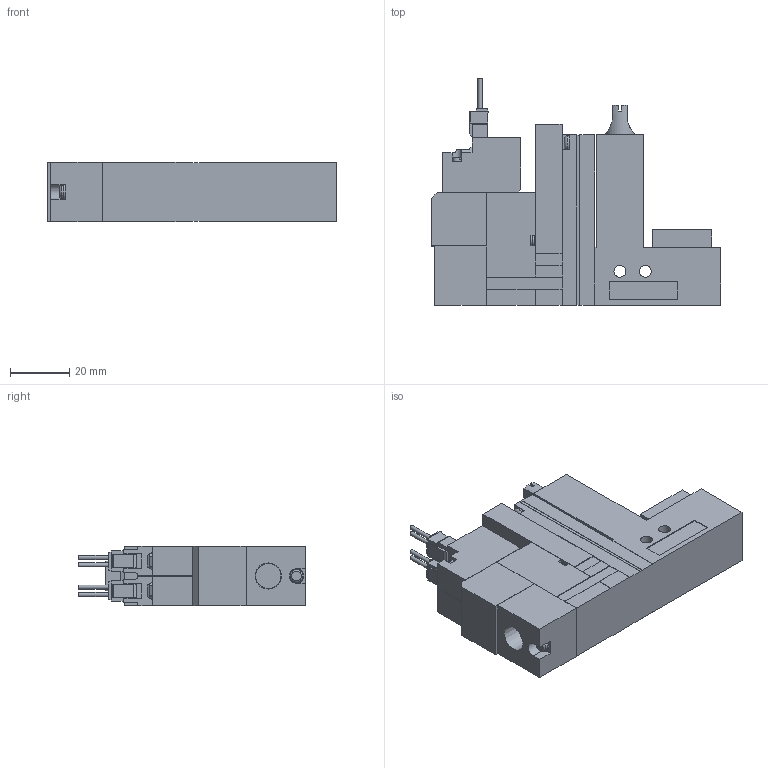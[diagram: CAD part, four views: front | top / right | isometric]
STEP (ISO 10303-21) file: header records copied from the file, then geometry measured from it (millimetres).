
FILE_DESCRIPTION(('STEP AP203'),'1');
FILE_NAME('ZLC5BLR.stp','2025-02-16T23:59:42',(' '),(' '),'Spatial InterOp 3D',' ',' ');
FILE_SCHEMA(('CONFIG_CONTROL_DESIGN'));
Length unit declared in the file: millimetre
Products named in the file (5): BMC22S※※※※ZLC5BLR; Solenoid valve B; Pressure sensor ZLC; Unit LC; Base SR10R
Assembly tree (4 placements, depth 2):
  BMC22S※※※※ZLC5BLR
    Solenoid valve B
    Pressure sensor ZLC
    Unit LC
    Base SR10R
Bounding box: 97.6 x 76.45 x 20 mm (x, y, z)
Volume: 88806.2 mm3; surface area: 23267.1 mm2
Topology: 4 solids, 4 shells, 361 faces, 971 edges, 638 vertices
Faces by surface type: plane 316, cylinder 34, cone 6, torus 5
Full cylindrical faces by diameter (mm): 1.4 x4, 2.5 x1, 3 x4, 3.5 x4, 3.6 x1, 4 x2, 4.134 x1, 6 x1
Entity records: 11314 total; most frequent: CARTESIAN_POINT 2081, ORIENTED_EDGE 1868, DIRECTION 1770, EDGE_CURVE 934, LINE 818, VECTOR 818, VERTEX_POINT 631, AXIS2_PLACEMENT_3D 476
